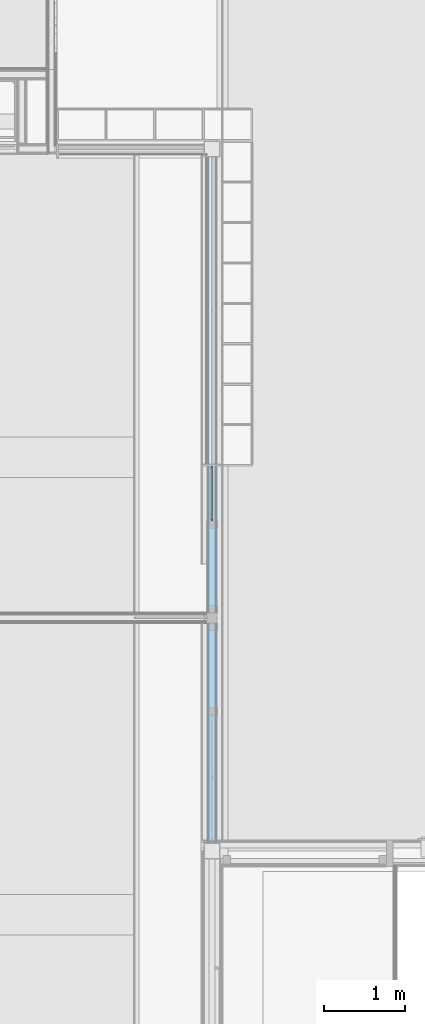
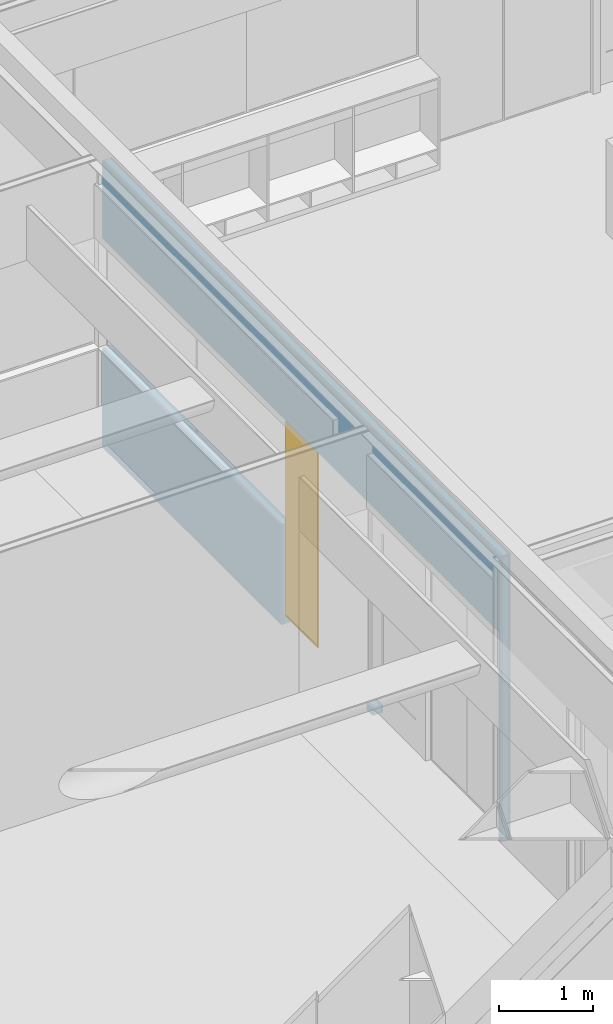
# One storey, part 61 of 137: 1 door, 7 openings, 1 element without a shape of its own, plus 5 elements that do not belong to this part.
"""IFC2X3 building model written with IfcOpenShell, lengths in millimetres."""

from ifc_helpers import new_model, entity, si_unit, converted_unit, derived_unit, money_unit, direction, frame, origin_with_axes, place, context, subcontext, project, spatial, open_shell, faceted_brep, surface_model, material, type_object, element, fill, aggregate, save


model = new_model("IFC2X3")

# Units and contexts
model_context = context("Model", 3, precision=0.01, world=origin_with_axes(), true_north=direction((0.0, 1.0)))
body_context = subcontext(model_context, "Body", "Model", "MODEL_VIEW")
ifc_project = project(units=[si_unit("LENGTHUNIT", "METRE", prefix="MILLI"), si_unit("AREAUNIT", "SQUARE_METRE"), si_unit("VOLUMEUNIT", "CUBIC_METRE"), converted_unit("PLANEANGLEUNIT", "DEGREE", entity("IfcPlaneAngleMeasure", 0.0174532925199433), si_unit("PLANEANGLEUNIT", "RADIAN"), dimensions=[0, 0, 0, 0, 0, 0, 0]), money_unit("EUR"), converted_unit("TIMEUNIT", "Year", entity("IfcTimeMeasure", 31556926.0), si_unit("TIMEUNIT", "SECOND"), dimensions=[0, 0, 1, 0, 0, 0, 0]), si_unit("MASSUNIT", "GRAM", prefix="KILO"), si_unit("THERMODYNAMICTEMPERATUREUNIT", "DEGREE_CELSIUS"), si_unit("LUMINOUSINTENSITYUNIT", "LUMEN"), si_unit("ENERGYUNIT", "JOULE", prefix="MEGA"), derived_unit("THERMALCONDUCTANCEUNIT", [(si_unit("POWERUNIT", "WATT"), 1), (si_unit("LENGTHUNIT", "METRE"), -1), (si_unit("THERMODYNAMICTEMPERATUREUNIT", "KELVIN"), -1)]), derived_unit("SPECIFICHEATCAPACITYUNIT", [(si_unit("ENERGYUNIT", "JOULE"), 1), (si_unit("MASSUNIT", "GRAM", prefix="KILO"), -1), (si_unit("THERMODYNAMICTEMPERATUREUNIT", "KELVIN"), -1)]), derived_unit("MASSDENSITYUNIT", [(si_unit("MASSUNIT", "GRAM", prefix="KILO"), 1), (si_unit("VOLUMEUNIT", "CUBIC_METRE"), -1)])], contexts=[model_context])

# Site, building, storey
site_placement = place(None, origin_with_axes())
site = spatial("IfcSite", under=ifc_project, at=site_placement, Name="Site", CompositionType="ELEMENT")
building_placement = place(site_placement, origin_with_axes())
building = spatial("IfcBuilding", under=site, at=building_placement, Name="Naam gebouw", CompositionType="ELEMENT")
storey_placement = place(building_placement, frame((0.0, 0.0, 3960.0), z_axis=(0.0, 0.0, 1.0), x_axis=(1.0, 0.0, 0.0)))
storey = spatial("IfcBuildingStorey", under=building, at=storey_placement, Name="1e verdieping", CompositionType="ELEMENT", Elevation=3960.0)

# Door
door_style = type_object("IfcDoorStyle", Name="R1 26", ConstructionType="NOTDEFINED", OperationType="SINGLE_SWING_RIGHT", ParameterTakesPrecedence=False, Sizeable=False)
proxy_placement = place(storey_placement, frame((8850.000000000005, 19449.9998112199, -100.0000000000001), z_axis=(0.0, 0.0, 1.0), x_axis=(0.0, -1.0, 0.0)))
opening_3_placement = place(proxy_placement, frame((4240.000000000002, 0.0, 100.0000000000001), z_axis=(0.0, 0.0, 1.0), x_axis=(1.0, 0.0, 0.0)))
door_placement = place(opening_3_placement, frame((-339.9999999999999, 0.0, 0.0), z_axis=(0.0, 0.0, 1.0), x_axis=(1.0, 0.0, 0.0)))
door = element("IfcDoor", 1, at=door_placement, inside=storey, type_object=door_style, Name="_B.07", ObjectType="DOOR", OverallHeight=2600.0, OverallWidth=680.0, context=body_context, shape_type="SurfaceModel", body=[
    faceted_brep([(0.0, 7.500000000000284, 20.00000000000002), (19.99999999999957, 7.500000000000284, 20.00000000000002), (19.99999999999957, -12.49999999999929, 20.00000000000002), (0.0, -12.49999999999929, 20.00000000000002), (0.0, 7.500000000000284, 2580.0), (19.99999999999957, 7.500000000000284, 2580.0), (19.99999999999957, -12.49999999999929, 2580.0), (0.0, -12.49999999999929, 2580.0)], [[[0, 1, 2, 3]], [[4, 5, 1, 0]], [[1, 5, 6, 2]], [[7, 3, 2, 6]], [[4, 0, 3, 7]], [[5, 4, 7, 6]]]),
    faceted_brep([(660.0000000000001, 7.500000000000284, 20.00000000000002), (660.0000000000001, -12.49999999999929, 20.00000000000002), (679.9999999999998, -12.49999999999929, 20.00000000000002), (679.9999999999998, 7.500000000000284, 20.00000000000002), (19.99999999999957, 7.500000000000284, 20.00000000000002), (19.99999999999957, -12.49999999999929, 20.00000000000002), (0.0, -12.49999999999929, 20.00000000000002), (0.0, -12.49999999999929, 0.0), (679.9999999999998, -12.49999999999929, 0.0), (679.9999999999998, 7.500000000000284, 0.0), (0.0, 7.500000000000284, 0.0), (0.0, 7.500000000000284, 20.00000000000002)], [[[0, 1, 2, 3]], [[4, 5, 1, 0]], [[2, 1, 5, 6, 7, 8]], [[3, 2, 8, 9]], [[4, 0, 3, 9, 10, 11]], [[11, 6, 5, 4]], [[10, 7, 6, 11]], [[9, 8, 7, 10]]]),
    faceted_brep([(660.0000000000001, -12.49999999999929, 2580.0), (679.9999999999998, -12.49999999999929, 2580.0), (679.9999999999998, 7.500000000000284, 2580.0), (660.0000000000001, 7.500000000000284, 2580.0), (660.0000000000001, -12.49999999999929, 20.00000000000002), (679.9999999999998, -12.49999999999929, 20.00000000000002), (679.9999999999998, 7.500000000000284, 20.00000000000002), (660.0000000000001, 7.500000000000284, 20.00000000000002)], [[[0, 1, 2, 3]], [[0, 4, 5, 1]], [[1, 5, 6, 2]], [[3, 2, 6, 7]], [[4, 0, 3, 7]], [[5, 4, 7, 6]]]),
    faceted_brep([(19.99999999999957, -12.49999999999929, 2580.0), (0.0, -12.49999999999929, 2580.0), (0.0, 7.500000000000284, 2580.0), (19.99999999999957, 7.500000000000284, 2580.0), (660.0000000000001, -12.49999999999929, 2580.0), (679.9999999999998, -12.49999999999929, 2580.0), (679.9999999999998, -12.49999999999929, 2600.0), (0.0, -12.49999999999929, 2600.0), (0.0, 7.500000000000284, 2600.0), (679.9999999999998, 7.500000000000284, 2600.0), (679.9999999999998, 7.500000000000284, 2580.0), (660.0000000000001, 7.500000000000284, 2580.0)], [[[0, 1, 2, 3]], [[0, 4, 5, 6, 7, 1]], [[1, 7, 8, 2]], [[3, 2, 8, 9, 10, 11]], [[4, 0, 3, 11]], [[5, 4, 11, 10]], [[6, 5, 10, 9]], [[7, 6, 9, 8]]]),
    surface_model("IfcShellBasedSurfaceModel", [(660.0000000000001, -7.500000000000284, 20.00000000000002), (660.0000000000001, -7.500000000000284, 2580.0), (19.99999999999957, -7.500000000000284, 2580.0), (19.99999999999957, -7.500000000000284, 20.00000000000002)], [open_shell([[[0, 1, 2, 3]]])]),
    surface_model("IfcShellBasedSurfaceModel", [(660.0000000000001, 2.499999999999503, 20.00000000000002), (19.99999999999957, 2.499999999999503, 20.00000000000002), (19.99999999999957, 2.499999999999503, 2580.0), (660.0000000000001, 2.499999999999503, 2580.0)], [open_shell([[[0, 1, 2, 3]]])]),
])

# Proxy, openings
building_element_proxy_type = type_object("IfcBuildingElementProxyType", Name="22 Metal stud 125 gips 125", PredefinedType="NOTDEFINED")
proxy = element("IfcBuildingElementProxy", 2, at=proxy_placement, inside=storey, type_object=building_element_proxy_type, Name="_Wand-x")
opening_1_placement = place(proxy_placement, frame((8119.999775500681, 0.0, 100.0000000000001), z_axis=(0.0, 0.0, 1.0), x_axis=(1.0, 0.0, 0.0)))
element("IfcOpeningElement", 3, at=opening_1_placement, cuts=proxy, Name="_B.08", context=body_context, shape_type="Brep", body=[
    faceted_brep([(-384.999925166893, 12.49999999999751, -100.0000000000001), (-384.999925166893, 12.49999999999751, 2600.0), (-384.999925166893, 63.49999999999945, 2600.0), (-384.999925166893, 63.49999999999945, -100.0000000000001), (-384.999925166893, -63.49999999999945, -100.0000000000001), (-384.999925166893, -63.49999999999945, 2600.0), (384.999925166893, 12.49999999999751, 2600.0), (384.999925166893, 63.49999999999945, 2600.0), (384.999925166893, -63.49999999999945, 2600.0), (384.999925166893, 63.49999999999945, -100.0000000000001), (384.999925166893, 12.49999999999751, -100.0000000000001), (384.999925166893, -63.49999999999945, -100.0000000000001)], [[[0, 1, 2, 3]], [[1, 0, 4, 5]], [[6, 7, 2, 1, 5, 8]], [[7, 9, 3, 2]], [[0, 3, 9, 10, 11, 4]], [[5, 4, 11, 8]], [[6, 10, 9, 7]], [[10, 6, 8, 11]]]),
])
opening_2_placement = place(proxy_placement, frame((2950.000000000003, 0.0, 1298.0), z_axis=(0.0, 0.0, 1.0), x_axis=(1.0, 0.0, 0.0)))
element("IfcOpeningElement", 4, at=opening_2_placement, cuts=proxy, Name="_C.02", context=body_context, shape_type="Brep", body=[
    faceted_brep([(-949.9999999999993, 12.49999999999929, 0.0), (-949.9999999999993, 12.49999999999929, 1400.0), (-949.9999999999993, 63.49999999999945, 1400.0), (-949.9999999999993, 63.49999999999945, 0.0), (-949.9999999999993, -63.49999999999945, 0.0), (-949.9999999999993, -63.49999999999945, 1400.0), (950.000000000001, 12.49999999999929, 1400.0), (950.000000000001, 63.49999999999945, 1400.0), (950.000000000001, -63.49999999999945, 1400.0), (950.000000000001, 63.49999999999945, 0.0), (950.000000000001, 12.49999999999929, 0.0), (950.000000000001, -63.49999999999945, 0.0)], [[[0, 1, 2, 3]], [[1, 0, 4, 5]], [[6, 7, 2, 1, 5, 8]], [[7, 9, 3, 2]], [[0, 3, 9, 10, 11, 4]], [[5, 4, 11, 8]], [[6, 10, 9, 7]], [[10, 6, 8, 11]]]),
])
opening_3 = element("IfcOpeningElement", 5, at=opening_3_placement, cuts=proxy, Name="_B.07", context=body_context, shape_type="Brep", body=[
    faceted_brep([(339.9999999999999, -12.49999999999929, -100.0000000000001), (339.9999999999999, -12.49999999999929, 2600.0), (339.9999999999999, -63.49999999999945, 2600.0), (339.9999999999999, -63.49999999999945, -100.0000000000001), (339.9999999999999, 63.49999999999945, -100.0000000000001), (339.9999999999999, 63.49999999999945, 2600.0), (-339.9999999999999, -12.49999999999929, 2600.0), (-339.9999999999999, -63.49999999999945, 2600.0), (-339.9999999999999, 63.49999999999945, 2600.0), (-339.9999999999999, -63.49999999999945, -100.0000000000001), (-339.9999999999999, -12.49999999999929, -100.0000000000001), (-339.9999999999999, 63.49999999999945, -100.0000000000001)], [[[0, 1, 2, 3]], [[1, 0, 4, 5]], [[6, 7, 2, 1, 5, 8]], [[7, 9, 3, 2]], [[0, 3, 9, 10, 11, 4]], [[5, 4, 11, 8]], [[6, 10, 9, 7]], [[10, 6, 8, 11]]]),
])

fill(opening_3, door)

# Opening
opening_4_placement = place(proxy_placement, frame((5145.000000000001, 0.0, 100.0000000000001), z_axis=(0.0, 0.0, 1.0), x_axis=(1.0, 0.0, 0.0)))
element("IfcOpeningElement", 6, at=opening_4_placement, cuts=proxy, Name="_02.01", context=body_context, shape_type="Brep", body=[
    faceted_brep([(564.9999999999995, 63.49999999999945, 2600.0), (564.9999999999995, 63.49999999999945, -100.0000000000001), (-564.9999999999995, 63.49999999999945, -100.0000000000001), (-564.9999999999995, 63.49999999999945, 2600.0), (564.9999999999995, -63.49999999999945, 2600.0), (564.9999999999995, -63.49999999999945, -100.0000000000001), (-564.9999999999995, -63.49999999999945, -100.0000000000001), (-564.9999999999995, -63.49999999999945, 2600.0)], [[[0, 1, 2, 3]], [[4, 5, 1, 0]], [[5, 6, 2, 1]], [[6, 7, 3, 2]], [[7, 4, 0, 3]], [[6, 5, 4, 7]]]),
])

opening_5_placement = place(proxy_placement, frame((7349.999925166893, 0.0, 100.0000000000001), z_axis=(0.0, 0.0, 1.0), x_axis=(1.0, 0.0, 0.0)))
element("IfcOpeningElement", 7, at=opening_5_placement, cuts=proxy, Name="_B.08", context=body_context, shape_type="Brep", body=[
    faceted_brep([(-384.999925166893, 12.49999999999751, -100.0000000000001), (-384.999925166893, 12.49999999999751, 2600.0), (-384.999925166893, 63.49999999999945, 2600.0), (-384.999925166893, 63.49999999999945, -100.0000000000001), (-384.999925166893, -63.49999999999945, -100.0000000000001), (-384.999925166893, -63.49999999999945, 2600.0), (384.999925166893, 12.49999999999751, 2600.0), (384.999925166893, 63.49999999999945, 2600.0), (384.999925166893, -63.49999999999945, 2600.0), (384.999925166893, 63.49999999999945, -100.0000000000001), (384.999925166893, 12.49999999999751, -100.0000000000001), (384.999925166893, -63.49999999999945, -100.0000000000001)], [[[0, 1, 2, 3]], [[1, 0, 4, 5]], [[6, 7, 2, 1, 5, 8]], [[7, 9, 3, 2]], [[0, 3, 9, 10, 11, 4]], [[5, 4, 11, 8]], [[6, 10, 9, 7]], [[10, 6, 8, 11]]]),
])

opening_6_placement = place(proxy_placement, frame((6400.0, 0.0, 100.0000000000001), z_axis=(0.0, 0.0, 1.0), x_axis=(1.0, 0.0, 0.0)))
element("IfcOpeningElement", 8, at=opening_6_placement, cuts=proxy, Name="_01.01", context=body_context, shape_type="Brep", body=[
    faceted_brep([(-564.9999999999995, -63.49999999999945, 2600.0), (-564.9999999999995, -63.49999999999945, -100.0000000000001), (564.9999999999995, -63.49999999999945, -100.0000000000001), (564.9999999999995, -63.49999999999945, 2600.0), (-564.9999999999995, 63.49999999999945, 2600.0), (-564.9999999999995, 63.49999999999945, -100.0000000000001), (564.9999999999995, 63.49999999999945, -100.0000000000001), (564.9999999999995, 63.49999999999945, 2600.0)], [[[0, 1, 2, 3]], [[4, 5, 1, 0]], [[5, 6, 2, 1]], [[6, 7, 3, 2]], [[7, 4, 0, 3]], [[6, 5, 4, 7]]]),
])

opening_7_placement = place(proxy_placement, frame((1050.000000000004, 0.0, 1298.0), z_axis=(0.0, 0.0, 1.0), x_axis=(1.0, 0.0, 0.0)))
element("IfcOpeningElement", 9, at=opening_7_placement, cuts=proxy, Name="_C.02", context=body_context, shape_type="Brep", body=[
    faceted_brep([(-949.9999999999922, 12.49999999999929, 0.0), (-949.9999999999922, 12.49999999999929, 1400.0), (-949.9999999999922, 63.49999999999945, 1400.0), (-949.9999999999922, 63.49999999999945, 0.0), (-949.9999999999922, -63.49999999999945, 0.0), (-949.9999999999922, -63.49999999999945, 1400.0), (949.9999999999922, 12.49999999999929, 1400.0), (949.9999999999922, 63.49999999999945, 1400.0), (949.9999999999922, -63.49999999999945, 1400.0), (949.9999999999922, 63.49999999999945, 0.0), (949.9999999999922, 12.49999999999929, 0.0), (949.9999999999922, -63.49999999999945, 0.0)], [[[0, 1, 2, 3]], [[1, 0, 4, 5]], [[6, 7, 2, 1, 5, 8]], [[7, 9, 3, 2]], [[0, 3, 9, 10, 11, 4]], [[5, 4, 11, 8]], [[6, 10, 9, 7]], [[10, 6, 8, 11]]]),
])

# Building element part
ifc_material_1 = material(Name="Gipsplaat")
building_element_part_1_placement = place(proxy_placement, origin_with_axes())
building_element_part_1 = element("IfcBuildingElementPart", 10, at=building_element_part_1_placement, material=ifc_material_1, Name="Gipsplaat", context=body_context, shape_type="Brep", body=[
    faceted_brep([(100.0000000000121, 37.49999999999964, 1280.000000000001), (100.0000000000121, 50.00000000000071, 1280.000000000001), (100.0000000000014, 50.00000000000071, 0.0), (100.0000000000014, 37.49999999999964, 0.0), (3880.004312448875, 50.00000000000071, 1280.000000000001), (3880.004288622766, 37.49999999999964, 1280.000000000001), (3880.004312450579, 50.00000000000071, 100.0000000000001), (3900.004312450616, 49.99999999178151, 100.0000000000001), (3900.000000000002, 50.00000000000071, 0.0), (3900.000000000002, 37.49999999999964, 0.0), (3900.004288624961, 37.49999999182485, 100.0000000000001), (3880.004288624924, 37.49999999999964, 100.0000000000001)], [[[0, 1, 2, 3]], [[4, 1, 0, 5]], [[1, 4, 6, 7, 8, 2]], [[9, 3, 2, 8]], [[5, 0, 3, 9, 10, 11]], [[4, 5, 11, 6]], [[6, 11, 10, 7]], [[10, 9, 8, 7]]]),
    faceted_brep([(8539.999700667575, 49.99999999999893, 0.0), (8504.999700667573, 49.99999999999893, 0.0), (8504.999700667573, 49.99999999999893, 2700.0), (5835.000000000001, 49.99999999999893, 2700.0), (5710.000000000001, 49.99999999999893, 2700.0), (3900.000000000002, 50.00000000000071, 2700.0), (3900.000000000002, 50.00000000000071, 2698.0), (100.0000000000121, 50.00000000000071, 2698.0), (100.0000000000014, 50.00000000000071, 3683.000002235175), (8539.999700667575, 49.99999999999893, 3683.000002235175), (8539.999700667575, 37.49999999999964, 0.0), (8504.999700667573, 37.49999999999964, 0.0), (8504.999700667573, 37.49999999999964, 2700.0), (5835.000000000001, 37.49999999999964, 2700.0), (5710.000000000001, 37.49999999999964, 2700.0), (3900.000000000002, 37.49999999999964, 2700.0), (3900.000000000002, 37.49999999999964, 2698.0), (100.0000000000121, 37.49999999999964, 2698.0), (100.0000000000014, 37.49999999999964, 3683.000002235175), (8539.999700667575, 37.49999999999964, 3683.000002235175)], [[[0, 1, 2, 3, 4, 5, 6, 7, 8, 9]], [[1, 0, 10, 11]], [[1, 11, 12, 2]], [[3, 2, 12, 13]], [[4, 3, 13, 14]], [[14, 15, 5, 4]], [[16, 6, 5, 15]], [[7, 6, 16, 17]], [[7, 17, 18, 8]], [[9, 8, 18, 19]], [[10, 0, 9, 19]], [[17, 16, 15, 14, 13, 12, 11, 10, 19, 18]]]),
    faceted_brep([(5710.000000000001, 37.49999999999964, 100.0000000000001), (5710.000000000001, 49.99999999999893, 100.0000000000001), (5710.000000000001, 49.99999999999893, 0.0), (5710.000000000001, 37.49999999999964, 0.0), (5835.000000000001, 49.99999999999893, 100.0000000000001), (5835.000000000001, 37.49999999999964, 100.0000000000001), (5835.000000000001, 49.99999999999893, 0.0), (5835.000000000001, 37.49999999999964, 0.0)], [[[0, 1, 2, 3]], [[4, 1, 0, 5]], [[1, 4, 6, 2]], [[2, 6, 7, 3]], [[5, 0, 3, 7]], [[4, 5, 7, 6]]]),
    faceted_brep([(100.0000000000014, 50.00000000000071, 3695.000002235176), (100.0000000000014, 50.00000000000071, 3699.999999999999), (8539.999700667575, 49.99999999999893, 3699.999999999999), (8539.999700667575, 49.99999999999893, 3695.000002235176), (100.0000000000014, 37.49999999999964, 3699.999999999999), (100.0000000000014, 37.49999999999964, 3695.000002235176), (8539.999700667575, 37.49999999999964, 3699.999999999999), (8539.999700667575, 37.49999999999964, 3695.000002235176)], [[[0, 1, 2, 3]], [[4, 1, 0, 5]], [[1, 4, 6, 2]], [[3, 2, 6, 7]], [[5, 0, 3, 7]], [[4, 5, 7, 6]]]),
])

building_element_part_2_placement = place(proxy_placement, origin_with_axes())
building_element_part_2 = element("IfcBuildingElementPart", 11, at=building_element_part_2_placement, material=ifc_material_1, Name="Gipsplaat", context=body_context, shape_type="Brep", body=[
    faceted_brep([(100.0000000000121, -50.00000000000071, 1280.000000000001), (100.0000000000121, -37.49999999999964, 1280.000000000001), (100.0000000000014, -37.49999999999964, 0.0), (100.0000000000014, -50.00000000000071, 0.0), (3880.004145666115, -37.49999999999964, 1280.000000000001), (3880.004121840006, -49.99999999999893, 1280.000000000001), (3880.004145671, -37.49999999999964, 100.0000000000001), (3900.004145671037, -37.50000000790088, 100.0000000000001), (3900.000000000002, -37.49999999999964, 0.0), (3900.000000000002, -50.00000000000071, 0.0), (3900.004121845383, -50.00000000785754, 100.0000000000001), (3880.004121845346, -49.99999999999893, 100.0000000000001)], [[[0, 1, 2, 3]], [[4, 1, 0, 5]], [[1, 4, 6, 7, 8, 2]], [[9, 3, 2, 8]], [[5, 0, 3, 9, 10, 11]], [[4, 5, 11, 6]], [[6, 11, 10, 7]], [[10, 9, 8, 7]]]),
    faceted_brep([(8539.999700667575, -37.50000000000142, 0.0), (8504.999700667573, -37.50000000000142, 0.0), (8504.999700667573, -37.50000000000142, 2700.0), (5835.000000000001, -37.50000000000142, 2700.0), (5710.000000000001, -37.50000000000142, 2700.0), (3900.000000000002, -37.49999999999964, 2700.0), (3900.000000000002, -37.49999999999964, 2698.0), (100.0000000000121, -37.49999999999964, 2698.0), (100.0000000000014, -37.49999999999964, 3683.000002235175), (8539.999700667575, -37.50000000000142, 3683.000002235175), (8539.999700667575, -50.00000000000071, 0.0), (8504.999700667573, -50.00000000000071, 0.0), (8504.999700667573, -50.00000000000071, 2700.0), (5835.000000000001, -49.99999999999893, 2700.0), (5710.000000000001, -49.99999999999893, 2700.0), (3900.000000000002, -49.99999999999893, 2700.0), (3900.000000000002, -49.99999999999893, 2698.0), (100.0000000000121, -49.99999999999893, 2698.0), (100.0000000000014, -49.99999999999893, 3683.000002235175), (8539.999700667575, -50.00000000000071, 3683.000002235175)], [[[0, 1, 2, 3, 4, 5, 6, 7, 8, 9]], [[1, 0, 10, 11]], [[1, 11, 12, 2]], [[3, 2, 12, 13]], [[4, 3, 13, 14]], [[14, 15, 5, 4]], [[16, 6, 5, 15]], [[7, 6, 16, 17]], [[7, 17, 18, 8]], [[9, 8, 18, 19]], [[10, 0, 9, 19]], [[17, 16, 15, 14, 13, 12, 11, 10, 19, 18]]]),
    faceted_brep([(5710.000000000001, -50.00000000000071, 100.0000000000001), (5710.000000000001, -37.50000000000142, 100.0000000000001), (5710.000000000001, -37.50000000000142, 0.0), (5710.000000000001, -50.00000000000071, 0.0), (5835.000000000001, -37.50000000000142, 100.0000000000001), (5835.000000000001, -50.00000000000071, 100.0000000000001), (5835.000000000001, -37.50000000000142, 0.0), (5835.000000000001, -50.00000000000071, 0.0)], [[[0, 1, 2, 3]], [[4, 1, 0, 5]], [[1, 4, 6, 2]], [[2, 6, 7, 3]], [[5, 0, 3, 7]], [[4, 5, 7, 6]]]),
    faceted_brep([(100.0000000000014, -37.49999999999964, 3695.000002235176), (100.0000000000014, -37.49999999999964, 3699.999999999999), (8539.999700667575, -37.50000000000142, 3699.999999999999), (8539.999700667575, -37.50000000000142, 3695.000002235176), (100.0000000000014, -49.99999999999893, 3699.999999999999), (100.0000000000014, -49.99999999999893, 3695.000002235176), (8539.999700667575, -50.00000000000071, 3699.999999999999), (8539.999700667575, -50.00000000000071, 3695.000002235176)], [[[0, 1, 2, 3]], [[4, 1, 0, 5]], [[1, 4, 6, 2]], [[3, 2, 6, 7]], [[5, 0, 3, 7]], [[4, 5, 7, 6]]]),
])

building_element_part_3_placement = place(proxy_placement, origin_with_axes())
building_element_part_3 = element("IfcBuildingElementPart", 12, at=building_element_part_3_placement, material=ifc_material_1, Name="Gipsplaat", context=body_context, shape_type="Brep", body=[
    faceted_brep([(100.0000000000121, -62.5, 1280.000000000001), (100.0000000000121, -50.00000000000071, 1280.000000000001), (100.0000000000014, -50.00000000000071, 0.0), (100.0000000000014, -62.5, 0.0), (3880.004121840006, -50.00000000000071, 1280.000000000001), (3880.004098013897, -62.5, 1280.000000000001), (3880.004121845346, -50.00000000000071, 100.0000000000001), (3900.004121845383, -50.00000000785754, 100.0000000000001), (3900.000000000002, -50.00000000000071, 0.0), (3900.000000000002, -62.5, 0.0), (3900.004098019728, -62.50000000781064, 100.0000000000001), (3880.004098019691, -62.5, 100.0000000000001)], [[[0, 1, 2, 3]], [[4, 1, 0, 5]], [[1, 4, 6, 7, 8, 2]], [[9, 3, 2, 8]], [[5, 0, 3, 9, 10, 11]], [[4, 5, 11, 6]], [[6, 11, 10, 7]], [[10, 9, 8, 7]]]),
    faceted_brep([(8539.999700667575, -50.00000000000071, 0.0), (8504.999700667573, -50.00000000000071, 0.0), (8504.999700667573, -50.00000000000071, 2700.0), (5835.000000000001, -50.00000000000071, 2700.0), (5710.000000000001, -50.00000000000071, 2700.0), (3900.000000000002, -50.00000000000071, 2700.0), (3900.000000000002, -50.00000000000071, 2698.0), (100.0000000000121, -49.99999999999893, 2698.0), (100.0000000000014, -49.99999999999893, 3683.000002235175), (8539.999700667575, -50.00000000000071, 3683.000002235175), (8539.999700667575, -62.50000000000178, 0.0), (8504.999700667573, -62.50000000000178, 0.0), (8504.999700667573, -62.5, 2700.0), (5835.000000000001, -62.5, 2700.0), (5710.000000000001, -62.5, 2700.0), (3900.000000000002, -62.5, 2700.0), (3900.000000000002, -62.5, 2698.0), (100.0000000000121, -62.5, 2698.0), (100.0000000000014, -62.5, 3683.000002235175), (8539.999700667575, -62.5, 3683.000002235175)], [[[0, 1, 2, 3, 4, 5, 6, 7, 8, 9]], [[1, 0, 10, 11]], [[1, 11, 12, 2]], [[3, 2, 12, 13]], [[4, 3, 13, 14]], [[14, 15, 5, 4]], [[16, 6, 5, 15]], [[7, 6, 16, 17]], [[7, 17, 18, 8]], [[9, 8, 18, 19]], [[10, 0, 9, 19]], [[17, 16, 15, 14, 13, 12, 11, 10, 19, 18]]]),
    faceted_brep([(5710.000000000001, -62.5, 100.0000000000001), (5710.000000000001, -50.00000000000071, 100.0000000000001), (5710.000000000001, -50.00000000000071, 0.0), (5710.000000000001, -62.50000000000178, 0.0), (5835.000000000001, -50.00000000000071, 100.0000000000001), (5835.000000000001, -62.5, 100.0000000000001), (5835.000000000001, -50.00000000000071, 0.0), (5835.000000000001, -62.50000000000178, 0.0)], [[[0, 1, 2, 3]], [[4, 1, 0, 5]], [[1, 4, 6, 2]], [[2, 6, 7, 3]], [[5, 0, 3, 7]], [[4, 5, 7, 6]]]),
    faceted_brep([(100.0000000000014, -49.99999999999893, 3695.000002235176), (100.0000000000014, -49.99999999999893, 3699.999999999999), (8539.999700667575, -50.00000000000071, 3699.999999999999), (8539.999700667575, -50.00000000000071, 3695.000002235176), (100.0000000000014, -62.5, 3699.999999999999), (100.0000000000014, -62.5, 3695.000002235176), (8539.999700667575, -62.5, 3699.999999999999), (8539.999700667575, -62.5, 3695.000002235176)], [[[0, 1, 2, 3]], [[4, 1, 0, 5]], [[1, 4, 6, 2]], [[3, 2, 6, 7]], [[5, 0, 3, 7]], [[4, 5, 7, 6]]]),
])

ifc_material_2 = material(Name="ALG - LICHTE SCHEIDINGSWAND")
building_element_part_4_placement = place(proxy_placement, origin_with_axes())
building_element_part_4 = element("IfcBuildingElementPart", 13, at=building_element_part_4_placement, material=ifc_material_2, Name="ALG - LICHTE SCHEIDINGSWAND", context=body_context, shape_type="Brep", body=[
    faceted_brep([(100.0000000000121, -37.49999999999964, 1280.000000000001), (100.0000000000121, 37.49999999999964, 1280.000000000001), (100.0000000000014, 37.49999999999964, 0.0), (100.0000000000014, -37.49999999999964, 0.0), (3880.004288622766, 37.49999999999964, 1280.000000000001), (3880.004145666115, -37.49999999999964, 1280.000000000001), (3880.004288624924, 37.49999999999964, 100.0000000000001), (3900.004288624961, 37.49999999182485, 100.0000000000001), (3900.000000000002, 37.49999999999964, 0.0), (3900.000000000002, -37.49999999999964, 0.0), (3900.004145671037, -37.50000000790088, 100.0000000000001), (3880.004145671, -37.49999999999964, 100.0000000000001)], [[[0, 1, 2, 3]], [[4, 1, 0, 5]], [[1, 4, 6, 7, 8, 2]], [[2, 8, 9, 3]], [[5, 0, 3, 9, 10, 11]], [[4, 5, 11, 6]], [[6, 11, 10, 7]], [[10, 9, 8, 7]]]),
    faceted_brep([(8539.999700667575, 37.49999999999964, 0.0), (8504.999700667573, 37.49999999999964, 0.0), (8504.999700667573, 37.49999999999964, 2700.0), (5835.000000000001, 37.49999999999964, 2700.0), (5710.000000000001, 37.49999999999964, 2700.0), (3900.000000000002, 37.49999999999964, 2700.0), (3900.000000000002, 37.49999999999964, 2698.0), (100.0000000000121, 37.49999999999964, 2698.0), (100.0000000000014, 37.49999999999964, 3683.000002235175), (8539.999700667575, 37.49999999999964, 3683.000002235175), (8504.999700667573, -37.50000000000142, 0.0), (8539.999700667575, -37.50000000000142, 0.0), (8504.999700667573, -37.50000000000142, 2700.0), (5835.000000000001, -37.50000000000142, 2700.0), (5710.000000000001, -37.50000000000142, 2700.0), (3900.000000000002, -37.49999999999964, 2700.0), (3900.000000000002, -37.49999999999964, 2698.0), (100.0000000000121, -37.49999999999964, 2698.0), (100.0000000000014, -37.49999999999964, 3683.000002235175), (8539.999700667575, -37.50000000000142, 3683.000002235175)], [[[0, 1, 2, 3, 4, 5, 6, 7, 8, 9]], [[10, 1, 0, 11]], [[10, 12, 2, 1]], [[3, 2, 12, 13]], [[4, 3, 13, 14]], [[14, 15, 5, 4]], [[6, 5, 15, 16]], [[6, 16, 17, 7]], [[8, 7, 17, 18]], [[8, 18, 19, 9]], [[0, 9, 19, 11]], [[17, 16, 15, 14, 13, 12, 10, 11, 19, 18]]]),
    faceted_brep([(5710.000000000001, -37.50000000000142, 100.0000000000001), (5710.000000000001, 37.49999999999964, 100.0000000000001), (5710.000000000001, 37.49999999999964, 0.0), (5710.000000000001, -37.50000000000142, 0.0), (5835.000000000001, 37.49999999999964, 100.0000000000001), (5835.000000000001, -37.50000000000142, 100.0000000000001), (5835.000000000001, 37.49999999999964, 0.0), (5835.000000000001, -37.50000000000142, 0.0)], [[[0, 1, 2, 3]], [[4, 1, 0, 5]], [[1, 4, 6, 2]], [[2, 6, 7, 3]], [[5, 0, 3, 7]], [[4, 5, 7, 6]]]),
    faceted_brep([(100.0000000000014, 37.49999999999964, 3695.000002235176), (100.0000000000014, 37.49999999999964, 3699.999999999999), (8539.999700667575, 37.49999999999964, 3699.999999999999), (8539.999700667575, 37.49999999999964, 3695.000002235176), (100.0000000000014, -37.49999999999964, 3699.999999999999), (100.0000000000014, -37.49999999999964, 3695.000002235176), (8539.999700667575, -37.50000000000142, 3699.999999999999), (8539.999700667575, -37.50000000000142, 3695.000002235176)], [[[0, 1, 2, 3]], [[4, 1, 0, 5]], [[1, 4, 6, 2]], [[3, 2, 6, 7]], [[5, 0, 3, 7]], [[4, 5, 7, 6]]]),
])

building_element_part_5_placement = place(proxy_placement, origin_with_axes())
building_element_part_5 = element("IfcBuildingElementPart", 14, at=building_element_part_5_placement, material=ifc_material_1, Name="Gipsplaat", context=body_context, shape_type="Brep", body=[
    faceted_brep([(100.0000000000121, 50.00000000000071, 1280.000000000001), (100.0000000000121, 62.5, 1280.000000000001), (100.0000000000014, 62.5, 0.0), (100.0000000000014, 50.00000000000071, 0.0), (3880.004336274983, 62.5, 1280.000000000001), (3880.004312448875, 50.00000000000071, 1280.000000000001), (3880.004336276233, 62.5, 100.0000000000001), (3900.00433627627, 62.49999999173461, 100.0000000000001), (3900.000000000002, 62.5, 0.0), (3900.000000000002, 50.00000000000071, 0.0), (3900.004312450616, 49.99999999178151, 100.0000000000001), (3880.004312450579, 50.00000000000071, 100.0000000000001)], [[[0, 1, 2, 3]], [[4, 1, 0, 5]], [[1, 4, 6, 7, 8, 2]], [[9, 3, 2, 8]], [[5, 0, 3, 9, 10, 11]], [[4, 5, 11, 6]], [[6, 11, 10, 7]], [[10, 9, 8, 7]]]),
    faceted_brep([(8539.999700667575, 62.49999999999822, 0.0), (8504.999700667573, 62.49999999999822, 0.0), (8504.999700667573, 62.49999999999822, 2700.0), (5835.000000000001, 62.5, 2700.0), (5710.000000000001, 62.5, 2700.0), (3900.000000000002, 62.5, 2700.0), (3900.000000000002, 62.5, 2698.0), (100.0000000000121, 62.5, 2698.0), (100.0000000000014, 62.5, 3683.000002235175), (8539.999700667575, 62.5, 3683.000002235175), (8539.999700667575, 49.99999999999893, 0.0), (8504.999700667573, 49.99999999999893, 0.0), (8504.999700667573, 50.00000000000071, 2700.0), (5835.000000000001, 50.00000000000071, 2700.0), (5710.000000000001, 50.00000000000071, 2700.0), (3900.000000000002, 50.00000000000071, 2700.0), (3900.000000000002, 50.00000000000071, 2698.0), (100.0000000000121, 50.00000000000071, 2698.0), (100.0000000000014, 50.00000000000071, 3683.000002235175), (8539.999700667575, 49.99999999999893, 3683.000002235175)], [[[0, 1, 2, 3, 4, 5, 6, 7, 8, 9]], [[1, 0, 10, 11]], [[1, 11, 12, 2]], [[3, 2, 12, 13]], [[4, 3, 13, 14]], [[14, 15, 5, 4]], [[16, 6, 5, 15]], [[7, 6, 16, 17]], [[7, 17, 18, 8]], [[9, 8, 18, 19]], [[10, 0, 9, 19]], [[17, 16, 15, 14, 13, 12, 11, 10, 19, 18]]]),
    faceted_brep([(5710.000000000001, 49.99999999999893, 100.0000000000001), (5710.000000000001, 62.5, 100.0000000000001), (5710.000000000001, 62.49999999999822, 0.0), (5710.000000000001, 49.99999999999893, 0.0), (5835.000000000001, 62.5, 100.0000000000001), (5835.000000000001, 49.99999999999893, 100.0000000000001), (5835.000000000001, 62.49999999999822, 0.0), (5835.000000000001, 49.99999999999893, 0.0)], [[[0, 1, 2, 3]], [[4, 1, 0, 5]], [[1, 4, 6, 2]], [[2, 6, 7, 3]], [[5, 0, 3, 7]], [[4, 5, 7, 6]]]),
    faceted_brep([(100.0000000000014, 62.5, 3695.000002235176), (100.0000000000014, 62.5, 3699.999999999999), (8539.999700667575, 62.5, 3699.999999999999), (8539.999700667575, 62.5, 3695.000002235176), (100.0000000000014, 50.00000000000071, 3699.999999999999), (100.0000000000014, 50.00000000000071, 3695.000002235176), (8539.999700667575, 49.99999999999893, 3699.999999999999), (8539.999700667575, 49.99999999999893, 3695.000002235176)], [[[0, 1, 2, 3]], [[4, 1, 0, 5]], [[1, 4, 6, 2]], [[3, 2, 6, 7]], [[5, 0, 3, 7]], [[4, 5, 7, 6]]]),
])

aggregate(proxy, [building_element_part_1, building_element_part_2, building_element_part_3, building_element_part_4, building_element_part_5])

save(model, "model.ifc")
